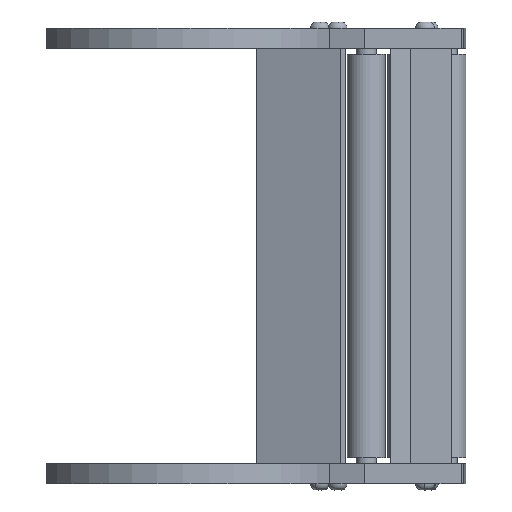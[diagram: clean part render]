
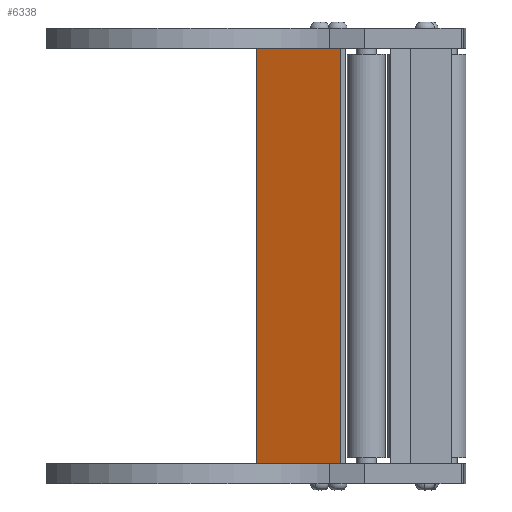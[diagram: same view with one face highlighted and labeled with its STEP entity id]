
A CAD part, front view. The second image highlights one B-rep face of the part: STEP entity #6338.
In plain terms, the highlighted planar face has unit normal (-0.342, -0.94, 0) as drawn and (0.342, -0.94, 0) by its records, which use the part's own axes.
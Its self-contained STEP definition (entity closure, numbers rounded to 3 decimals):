
#214 = CARTESIAN_POINT ( 'NONE',  ( 35., 12.137, 0. ) ) ;
#376 = EDGE_CURVE ( 'NONE', #1419, #2109, #8593, .T. ) ;
#884 = CARTESIAN_POINT ( 'NONE',  ( 1.655, 0., 163. ) ) ;
#1273 = VERTEX_POINT ( 'NONE', #5436 ) ;
#1419 = VERTEX_POINT ( 'NONE', #3961 ) ;
#1601 = CARTESIAN_POINT ( 'NONE',  ( 35., 12.137, 163. ) ) ;
#1663 = ORIENTED_EDGE ( 'NONE', *, *, #4018, .T. ) ;
#1672 = EDGE_LOOP ( 'NONE', ( #1663, #8645, #4982, #6377 ) ) ;
#2109 = VERTEX_POINT ( 'NONE', #5307 ) ;
#2174 = VECTOR ( 'NONE', #10466, 1000. ) ;
#2500 = DIRECTION ( 'NONE',  ( 0., 0., -1. ) ) ;
#2798 = EDGE_CURVE ( 'NONE', #2109, #9906, #9893, .T. ) ;
#3961 = CARTESIAN_POINT ( 'NONE',  ( 1.655, 0., 163. ) ) ;
#4010 = LINE ( 'NONE', #214, #9049 ) ;
#4018 = EDGE_CURVE ( 'NONE', #1273, #9906, #4010, .T. ) ;
#4587 = DIRECTION ( 'NONE',  ( 0., 0., -1. ) ) ;
#4943 = EDGE_CURVE ( 'NONE', #1419, #1273, #11227, .T. ) ;
#4982 = ORIENTED_EDGE ( 'NONE', *, *, #376, .F. ) ;
#5307 = CARTESIAN_POINT ( 'NONE',  ( 35., 12.137, 163. ) ) ;
#5436 = CARTESIAN_POINT ( 'NONE',  ( 1.655, 0., 0. ) ) ;
#5699 = CARTESIAN_POINT ( 'NONE',  ( 1.655, 0., 163. ) ) ;
#6139 = CARTESIAN_POINT ( 'NONE',  ( 35., 12.137, 163. ) ) ;
#6180 = VECTOR ( 'NONE', #2500, 1000. ) ;
#6338 = ADVANCED_FACE ( 'NONE', ( #8743 ), #7954, .F. ) ;
#6377 = ORIENTED_EDGE ( 'NONE', *, *, #4943, .T. ) ;
#7954 = PLANE ( 'NONE',  #9217 ) ;
#8585 = VECTOR ( 'NONE', #4587, 1000. ) ;
#8593 = LINE ( 'NONE', #5699, #2174 ) ;
#8645 = ORIENTED_EDGE ( 'NONE', *, *, #2798, .F. ) ;
#8743 = FACE_OUTER_BOUND ( 'NONE', #1672, .T. ) ;
#9049 = VECTOR ( 'NONE', #10557, 1000. ) ;
#9217 = AXIS2_PLACEMENT_3D ( 'NONE', #6139, #10494, #9829 ) ;
#9829 = DIRECTION ( 'NONE',  ( -0.94, -0.342, 0. ) ) ;
#9849 = CARTESIAN_POINT ( 'NONE',  ( 35., 12.137, 0. ) ) ;
#9893 = LINE ( 'NONE', #1601, #6180 ) ;
#9906 = VERTEX_POINT ( 'NONE', #9849 ) ;
#10466 = DIRECTION ( 'NONE',  ( 0.94, 0.342, 0. ) ) ;
#10494 = DIRECTION ( 'NONE',  ( -0.342, 0.94, 0. ) ) ;
#10557 = DIRECTION ( 'NONE',  ( 0.94, 0.342, 0. ) ) ;
#11227 = LINE ( 'NONE', #884, #8585 ) ;
